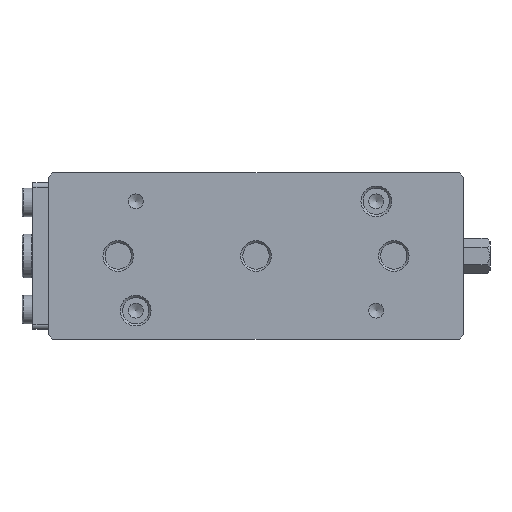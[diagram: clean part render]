
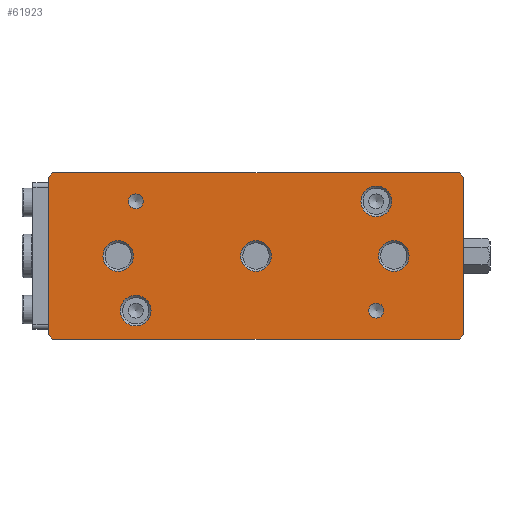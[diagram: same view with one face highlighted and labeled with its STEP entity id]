
A CAD part, front view. The second image highlights one B-rep face of the part: STEP entity #61923.
In plain terms, the highlighted planar face has unit normal (0, -1, 0).
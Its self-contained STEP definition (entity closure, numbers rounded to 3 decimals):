
#449 = LINE ( 'NONE', #38661, #66187 ) ;
#781 = EDGE_LOOP ( 'NONE', ( #18096 ) ) ;
#1497 = CIRCLE ( 'NONE', #49178, 3.4 ) ;
#1584 = CARTESIAN_POINT ( 'NONE',  ( 63., -56., 7. ) ) ;
#1927 = VERTEX_POINT ( 'NONE', #38755 ) ;
#2670 = ORIENTED_EDGE ( 'NONE', *, *, #54942, .T. ) ;
#3012 = VECTOR ( 'NONE', #43848, 1000. ) ;
#4509 = LINE ( 'NONE', #24322, #29940 ) ;
#4627 = CARTESIAN_POINT ( 'NONE',  ( 0., -56., 0. ) ) ;
#4789 = DIRECTION ( 'NONE',  ( 0., -1., 0. ) ) ;
#4856 = CARTESIAN_POINT ( 'NONE',  ( 93., -56., 38. ) ) ;
#5252 = EDGE_CURVE ( 'NONE', #33273, #33273, #47116, .T. ) ;
#6567 = AXIS2_PLACEMENT_3D ( 'NONE', #55309, #7750, #50082 ) ;
#6724 = CARTESIAN_POINT ( 'NONE',  ( 95., -56., 38. ) ) ;
#6963 = CARTESIAN_POINT ( 'NONE',  ( -93., -56., 38. ) ) ;
#7311 = FACE_BOUND ( 'NONE', #18811, .T. ) ;
#7750 = DIRECTION ( 'NONE',  ( 0., 1., 0. ) ) ;
#9768 = LINE ( 'NONE', #30971, #10871 ) ;
#10691 = CIRCLE ( 'NONE', #66114, 7. ) ;
#10871 = VECTOR ( 'NONE', #26759, 1000. ) ;
#11445 = EDGE_LOOP ( 'NONE', ( #55423 ) ) ;
#11820 = CARTESIAN_POINT ( 'NONE',  ( 55., -56., 25. ) ) ;
#12510 = FACE_BOUND ( 'NONE', #11445, .T. ) ;
#12584 = DIRECTION ( 'NONE',  ( -0.707, 0., 0.707 ) ) ;
#13192 = PLANE ( 'NONE',  #46013 ) ;
#13525 = FACE_BOUND ( 'NONE', #37874, .T. ) ;
#14456 = AXIS2_PLACEMENT_3D ( 'NONE', #29471, #49359, #46455 ) ;
#14559 = CARTESIAN_POINT ( 'NONE',  ( 95., -56., 36. ) ) ;
#15980 = EDGE_LOOP ( 'NONE', ( #42982 ) ) ;
#16654 = ORIENTED_EDGE ( 'NONE', *, *, #51328, .T. ) ;
#17203 = CARTESIAN_POINT ( 'NONE',  ( -95., -56., 36. ) ) ;
#17272 = CARTESIAN_POINT ( 'NONE',  ( -63., -56., 7. ) ) ;
#17320 = ORIENTED_EDGE ( 'NONE', *, *, #46968, .F. ) ;
#17976 = EDGE_LOOP ( 'NONE', ( #67107 ) ) ;
#18096 = ORIENTED_EDGE ( 'NONE', *, *, #50993, .T. ) ;
#18290 = VERTEX_POINT ( 'NONE', #28720 ) ;
#18497 = EDGE_CURVE ( 'NONE', #58747, #60714, #4509, .T. ) ;
#18758 = FACE_BOUND ( 'NONE', #31296, .T. ) ;
#18811 = EDGE_LOOP ( 'NONE', ( #17320 ) ) ;
#19428 = CARTESIAN_POINT ( 'NONE',  ( 95., -56., 38. ) ) ;
#20348 = EDGE_CURVE ( 'NONE', #18290, #18290, #65453, .T. ) ;
#20419 = CARTESIAN_POINT ( 'NONE',  ( -55., -56., 25. ) ) ;
#21195 = LINE ( 'NONE', #21535, #34139 ) ;
#21244 = DIRECTION ( 'NONE',  ( 0., 0., 1. ) ) ;
#21535 = CARTESIAN_POINT ( 'NONE',  ( -95., -56., 38. ) ) ;
#21543 = DIRECTION ( 'NONE',  ( 0., 1., 0. ) ) ;
#22326 = LINE ( 'NONE', #27190, #3012 ) ;
#22396 = CARTESIAN_POINT ( 'NONE',  ( -95., -56., -36. ) ) ;
#24303 = DIRECTION ( 'NONE',  ( 0., 1., 0. ) ) ;
#24322 = CARTESIAN_POINT ( 'NONE',  ( 95., -56., -38. ) ) ;
#25109 = VERTEX_POINT ( 'NONE', #6963 ) ;
#25690 = DIRECTION ( 'NONE',  ( -1., 0., 0. ) ) ;
#26759 = DIRECTION ( 'NONE',  ( 0.707, 0., -0.707 ) ) ;
#26816 = CARTESIAN_POINT ( 'NONE',  ( 93., -56., -38. ) ) ;
#27190 = CARTESIAN_POINT ( 'NONE',  ( 95., -56., 38. ) ) ;
#27257 = ORIENTED_EDGE ( 'NONE', *, *, #38081, .F. ) ;
#27905 = DIRECTION ( 'NONE',  ( -1., 0., 0. ) ) ;
#28581 = LINE ( 'NONE', #33803, #59459 ) ;
#28720 = CARTESIAN_POINT ( 'NONE',  ( 55., -56., -28.4 ) ) ;
#28861 = CARTESIAN_POINT ( 'NONE',  ( 95., -56., -36. ) ) ;
#29069 = ORIENTED_EDGE ( 'NONE', *, *, #32398, .T. ) ;
#29471 = CARTESIAN_POINT ( 'NONE',  ( 55., -56., -25. ) ) ;
#29714 = AXIS2_PLACEMENT_3D ( 'NONE', #4627, #35230, #45623 ) ;
#29940 = VECTOR ( 'NONE', #25690, 1000. ) ;
#29959 = EDGE_CURVE ( 'NONE', #49764, #68394, #28581, .T. ) ;
#30639 = DIRECTION ( 'NONE',  ( 0., 0., 1. ) ) ;
#30971 = CARTESIAN_POINT ( 'NONE',  ( -93., -56., -38. ) ) ;
#31296 = EDGE_LOOP ( 'NONE', ( #2670 ) ) ;
#32398 = EDGE_CURVE ( 'NONE', #25109, #60119, #62694, .T. ) ;
#33273 = VERTEX_POINT ( 'NONE', #17272 ) ;
#33547 = VERTEX_POINT ( 'NONE', #43592 ) ;
#33780 = ORIENTED_EDGE ( 'NONE', *, *, #38069, .T. ) ;
#33803 = CARTESIAN_POINT ( 'NONE',  ( 95., -56., 36. ) ) ;
#34139 = VECTOR ( 'NONE', #64227, 1000. ) ;
#34725 = DIRECTION ( 'NONE',  ( 0., 0., 1. ) ) ;
#35230 = DIRECTION ( 'NONE',  ( 0., 1., 0. ) ) ;
#35331 = DIRECTION ( 'NONE',  ( -0.707, 0., -0.707 ) ) ;
#36151 = EDGE_CURVE ( 'NONE', #68394, #25109, #61174, .T. ) ;
#37874 = EDGE_LOOP ( 'NONE', ( #39731 ) ) ;
#38069 = EDGE_CURVE ( 'NONE', #58747, #40388, #449, .T. ) ;
#38081 = EDGE_CURVE ( 'NONE', #49764, #40388, #22326, .T. ) ;
#38661 = CARTESIAN_POINT ( 'NONE',  ( 95., -56., -36. ) ) ;
#38755 = CARTESIAN_POINT ( 'NONE',  ( 0., -56., 7. ) ) ;
#39731 = ORIENTED_EDGE ( 'NONE', *, *, #5252, .T. ) ;
#40022 = CARTESIAN_POINT ( 'NONE',  ( -55., -56., -25. ) ) ;
#40271 = FACE_BOUND ( 'NONE', #17976, .T. ) ;
#40358 = DIRECTION ( 'NONE',  ( 0., 1., 0. ) ) ;
#40388 = VERTEX_POINT ( 'NONE', #28861 ) ;
#42423 = CARTESIAN_POINT ( 'NONE',  ( -63., -56., 0. ) ) ;
#42777 = DIRECTION ( 'NONE',  ( 0., 1., 0. ) ) ;
#42982 = ORIENTED_EDGE ( 'NONE', *, *, #20348, .F. ) ;
#43592 = CARTESIAN_POINT ( 'NONE',  ( -55., -56., -18. ) ) ;
#43848 = DIRECTION ( 'NONE',  ( 0., 0., -1. ) ) ;
#44790 = FACE_BOUND ( 'NONE', #15980, .T. ) ;
#45623 = DIRECTION ( 'NONE',  ( 0., 0., 1. ) ) ;
#46013 = AXIS2_PLACEMENT_3D ( 'NONE', #19428, #24303, #34725 ) ;
#46455 = DIRECTION ( 'NONE',  ( 0., 0., -1. ) ) ;
#46493 = CIRCLE ( 'NONE', #6567, 7. ) ;
#46968 = EDGE_CURVE ( 'NONE', #49485, #49485, #1497, .T. ) ;
#47080 = VECTOR ( 'NONE', #35331, 1000. ) ;
#47116 = CIRCLE ( 'NONE', #60390, 7. ) ;
#47479 = VERTEX_POINT ( 'NONE', #22396 ) ;
#47851 = ORIENTED_EDGE ( 'NONE', *, *, #18497, .F. ) ;
#49178 = AXIS2_PLACEMENT_3D ( 'NONE', #20419, #4789, #56537 ) ;
#49359 = DIRECTION ( 'NONE',  ( 0., -1., 0. ) ) ;
#49485 = VERTEX_POINT ( 'NONE', #54362 ) ;
#49764 = VERTEX_POINT ( 'NONE', #14559 ) ;
#49818 = VERTEX_POINT ( 'NONE', #54015 ) ;
#49990 = FACE_OUTER_BOUND ( 'NONE', #66306, .T. ) ;
#50082 = DIRECTION ( 'NONE',  ( 0., 0., 1. ) ) ;
#50439 = ORIENTED_EDGE ( 'NONE', *, *, #29959, .T. ) ;
#50480 = EDGE_CURVE ( 'NONE', #60119, #47479, #21195, .T. ) ;
#50913 = CARTESIAN_POINT ( 'NONE',  ( -93., -56., 38. ) ) ;
#50993 = EDGE_CURVE ( 'NONE', #1927, #1927, #66263, .T. ) ;
#51328 = EDGE_CURVE ( 'NONE', #47479, #60714, #9768, .T. ) ;
#51660 = CIRCLE ( 'NONE', #64994, 7. ) ;
#52436 = DIRECTION ( 'NONE',  ( 0., 0., 1. ) ) ;
#52857 = ORIENTED_EDGE ( 'NONE', *, *, #36151, .T. ) ;
#53558 = DIRECTION ( 'NONE',  ( 0.707, 0., 0.707 ) ) ;
#54015 = CARTESIAN_POINT ( 'NONE',  ( 55., -56., 32. ) ) ;
#54362 = CARTESIAN_POINT ( 'NONE',  ( -55., -56., 21.6 ) ) ;
#54942 = EDGE_CURVE ( 'NONE', #60232, #60232, #46493, .T. ) ;
#55309 = CARTESIAN_POINT ( 'NONE',  ( 63., -56., 0. ) ) ;
#55423 = ORIENTED_EDGE ( 'NONE', *, *, #64747, .T. ) ;
#56332 = ORIENTED_EDGE ( 'NONE', *, *, #50480, .T. ) ;
#56537 = DIRECTION ( 'NONE',  ( 0., 0., -1. ) ) ;
#58747 = VERTEX_POINT ( 'NONE', #26816 ) ;
#59459 = VECTOR ( 'NONE', #12584, 1000. ) ;
#60119 = VERTEX_POINT ( 'NONE', #17203 ) ;
#60232 = VERTEX_POINT ( 'NONE', #1584 ) ;
#60390 = AXIS2_PLACEMENT_3D ( 'NONE', #42423, #42777, #21244 ) ;
#60714 = VERTEX_POINT ( 'NONE', #66957 ) ;
#60753 = FACE_BOUND ( 'NONE', #781, .T. ) ;
#61174 = LINE ( 'NONE', #6724, #65280 ) ;
#61923 = ADVANCED_FACE ( 'NONE', ( #12510, #18758, #60753, #13525, #40271, #44790, #7311, #49990 ), #13192, .F. ) ;
#62694 = LINE ( 'NONE', #50913, #47080 ) ;
#64227 = DIRECTION ( 'NONE',  ( 0., 0., -1. ) ) ;
#64747 = EDGE_CURVE ( 'NONE', #49818, #49818, #51660, .T. ) ;
#64994 = AXIS2_PLACEMENT_3D ( 'NONE', #11820, #21543, #52436 ) ;
#65280 = VECTOR ( 'NONE', #27905, 1000. ) ;
#65453 = CIRCLE ( 'NONE', #14456, 3.4 ) ;
#66114 = AXIS2_PLACEMENT_3D ( 'NONE', #40022, #40358, #30639 ) ;
#66187 = VECTOR ( 'NONE', #53558, 1000. ) ;
#66230 = EDGE_CURVE ( 'NONE', #33547, #33547, #10691, .T. ) ;
#66263 = CIRCLE ( 'NONE', #29714, 7. ) ;
#66306 = EDGE_LOOP ( 'NONE', ( #27257, #50439, #52857, #29069, #56332, #16654, #47851, #33780 ) ) ;
#66957 = CARTESIAN_POINT ( 'NONE',  ( -93., -56., -38. ) ) ;
#67107 = ORIENTED_EDGE ( 'NONE', *, *, #66230, .T. ) ;
#68394 = VERTEX_POINT ( 'NONE', #4856 ) ;
